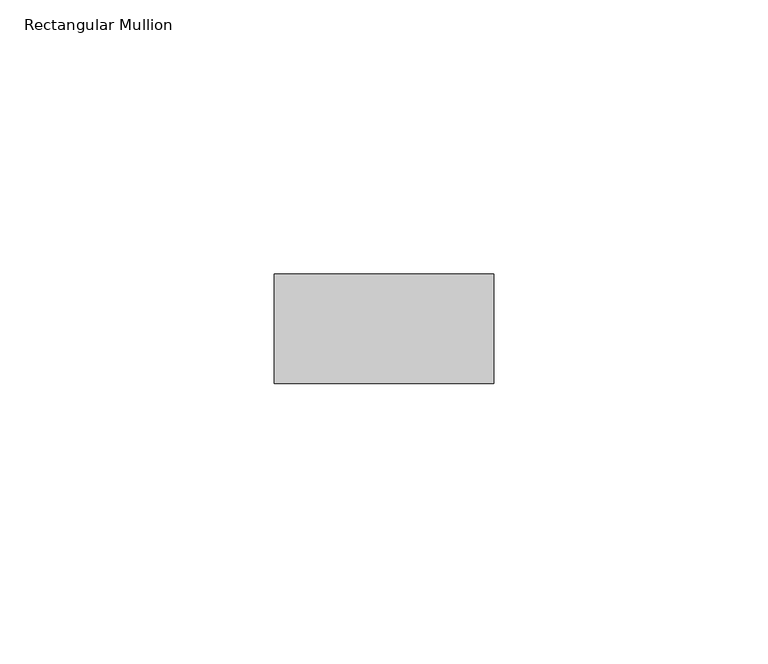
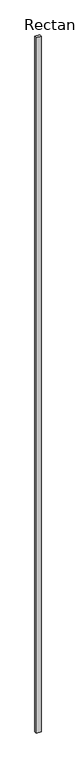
"""IFC4 building model written with IfcOpenShell, lengths in millimetres: member geometry, Rectangular Mullion : RIPA 4x2 cm."""

from ifc_helpers import new_model, si_unit, frame, origin, place, context, project, spatial, polyline, outline, extrude, source, transform, mapped, element, save


def rectangular_mullion_e713be55(model_context):
    return source(origin(), model_context, "Body", "SweptSolid", [
        extrude(outline(polyline([(20.0, 0.0), (20.0, -20.0), (-20.0, -20.0), (-20.0, 0.0), (20.0, 0.0)])), frame((0.0, 0.0, -6168.5190083), z_axis=(0.0, 0.0, 1.0), x_axis=(1.0, 0.0, 0.0)), (0.0, 0.0, 1.0), 6168.5190083),
    ])


if __name__ == "__main__":
    model = new_model("IFC4")
    model_context = context("Model", 3, world=origin())
    ifc_project = project(units=[si_unit("LENGTHUNIT", "METRE", prefix="MILLI")], contexts=[model_context])
    site = spatial("IfcSite", under=ifc_project)
    building = spatial("IfcBuilding", under=site)
    placement = place(None, origin())
    rectangular_mullion_shape = rectangular_mullion_e713be55(model_context)
    element("IfcMember", 1, ObjectType="Rectangular Mullion : RIPA 4x2 cm", at=placement, inside=building, context=model_context, shape_type="MappedRepresentation", body=[
        mapped(rectangular_mullion_shape, transform((0.0, 0.0, 0.0), x_axis=(1.0, 0.0, 0.0), y_axis=(0.0, 1.0, 0.0), z_axis=(0.0, 0.0, 1.0))),
    ])
    save(model, "model.ifc")
